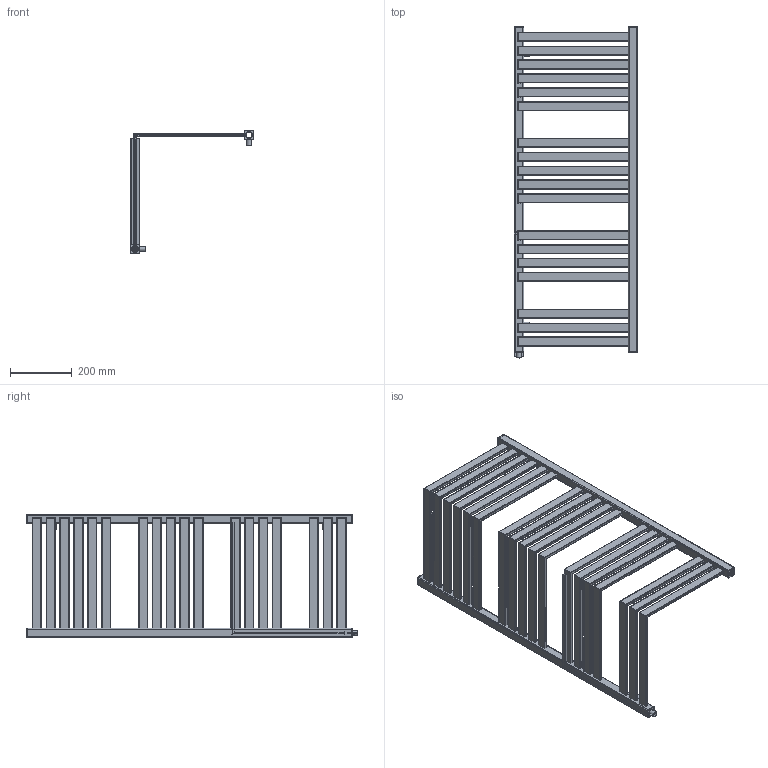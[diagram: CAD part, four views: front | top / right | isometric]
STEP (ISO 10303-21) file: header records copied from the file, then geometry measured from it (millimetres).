
FILE_DESCRIPTION( ( 'Unknown' ), '1' );
FILE_NAME( 'D:/Alplast sp. j/Witryna zespoBu - Projekty/Archiwum/Grzejniki Archiwum/Projekty/DESIGN PROGRAM/CORNER ALFA I BETA/CORNER ALFA 4.stp', 'Unknown', ( 'Unknown' ), ( 'Unknown' ), 'PSStep 10.1', 'Unknown', ' ' );
FILE_SCHEMA( ( 'AUTOMOTIVE_DESIGN { 1 0 10303 214 1 1 1 1 }' ) );
Length unit declared in the file: millimetre
Products named in the file (6): kana³ po giêciu; Assem1; kana³y 30x10 czêœæ do giêcia; AK4-N; zaslepka kwadrat otwor; mocowanie
Bounding box: 400 x 1078 x 400 mm (x, y, z)
Volume: 1837922.7 mm3; surface area: 2736028.5 mm2
Topology: 52 solids, 52 shells, 1484 faces, 4149 edges, 2740 vertices
Faces by surface type: plane 823, cylinder 651, torus 10
Full cylindrical faces by diameter (mm): 14 x5, 16 x5, 18.631 x5, 23 x5
Entity records: 8990 total; most frequent: DIRECTION 1291, CARTESIAN_POINT 1264, ORIENTED_EDGE 1198, EDGE_CURVE 599, AXIS2_PLACEMENT_3D 451, VERTEX_POINT 402, LINE 389, VECTOR 389
